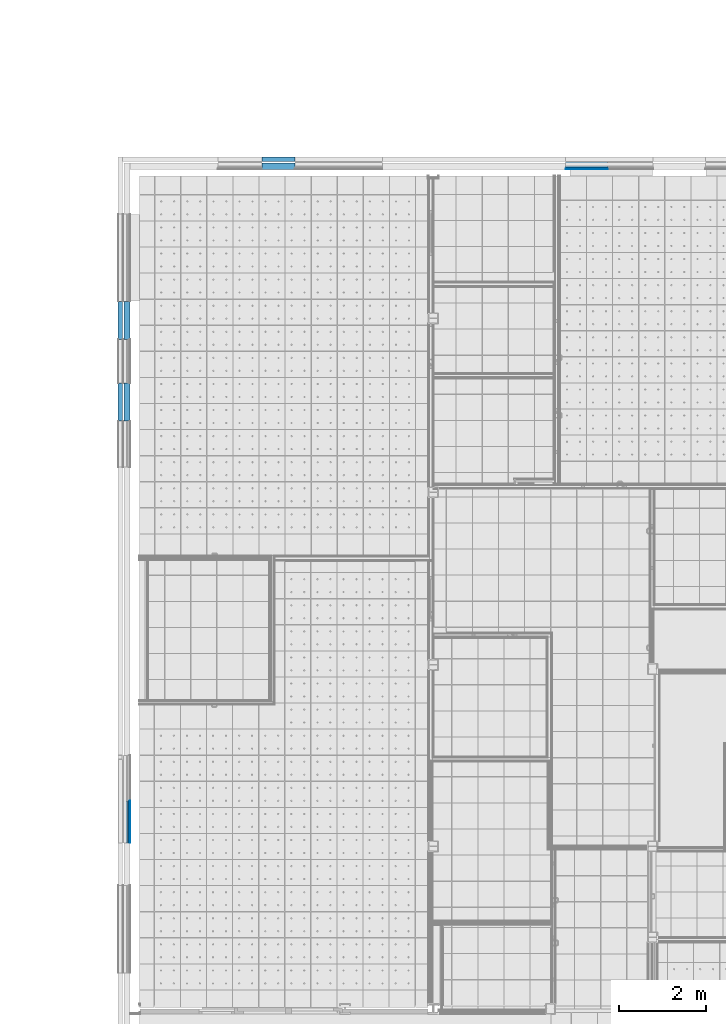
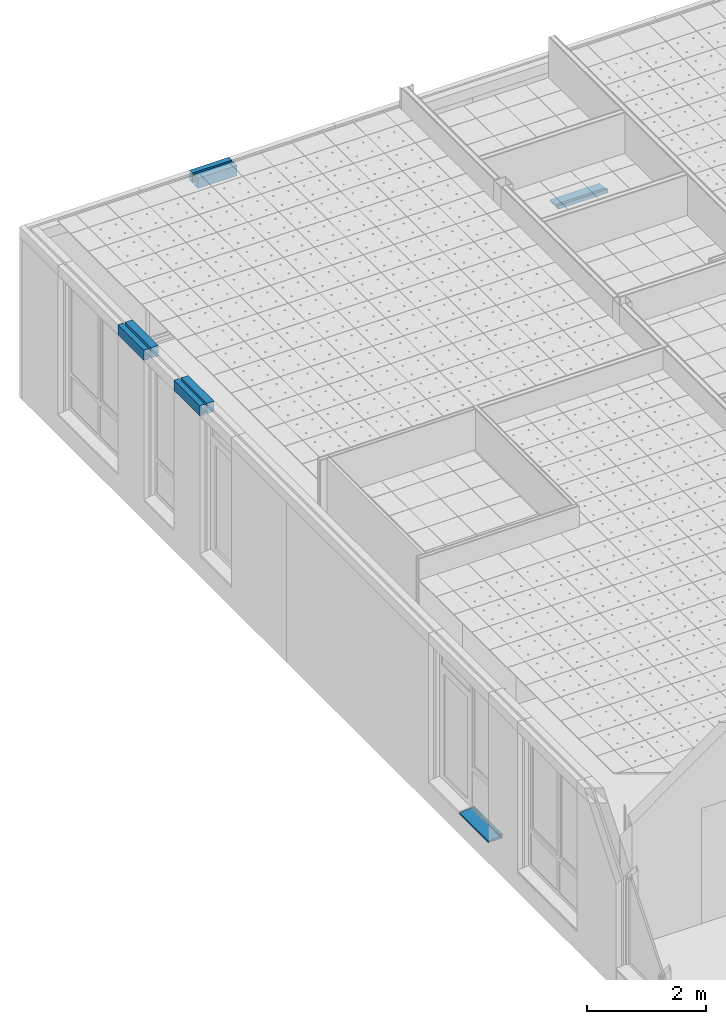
# One storey, part 115 of 338: 12 building element parts, 5 elements without a shape of their own.
"""IFC2X3 building model written with IfcOpenShell, lengths in millimetres."""

from ifc_helpers import new_model, entity, si_unit, converted_unit, derived_unit, money_unit, direction, frame, origin_with_axes, place, context, subcontext, project, spatial, faceted_brep, material, type_object, element, aggregate, save


model = new_model("IFC2X3")

# Units and contexts
model_context = context("Model", 3, precision=0.01, world=origin_with_axes(), true_north=direction((0.0, 1.0)))
plan_context = context("Plan", 3, precision=0.01, world=origin_with_axes(), true_north=direction((0.0, 1.0)))
body_context = subcontext(model_context, "Body", "Model", "MODEL_VIEW")
ifc_project = project(units=[si_unit("LENGTHUNIT", "METRE", prefix="MILLI"), si_unit("AREAUNIT", "SQUARE_METRE"), si_unit("VOLUMEUNIT", "CUBIC_METRE"), converted_unit("PLANEANGLEUNIT", "DEGREE", entity("IfcPlaneAngleMeasure", 0.0174532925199), si_unit("PLANEANGLEUNIT", "RADIAN"), dimensions=[0, 0, 0, 0, 0, 0, 0]), money_unit("EUR"), converted_unit("TIMEUNIT", "Year", entity("IfcTimeMeasure", 31556926.0), si_unit("TIMEUNIT", "SECOND"), dimensions=[0, 0, 1, 0, 0, 0, 0]), si_unit("MASSUNIT", "GRAM", prefix="KILO"), si_unit("THERMODYNAMICTEMPERATUREUNIT", "DEGREE_CELSIUS"), si_unit("LUMINOUSINTENSITYUNIT", "LUMEN"), si_unit("ENERGYUNIT", "JOULE", prefix="MEGA"), derived_unit("THERMALCONDUCTANCEUNIT", [(si_unit("POWERUNIT", "WATT"), 1), (si_unit("LENGTHUNIT", "METRE"), -1), (si_unit("THERMODYNAMICTEMPERATUREUNIT", "KELVIN"), -1)]), derived_unit("SPECIFICHEATCAPACITYUNIT", [(si_unit("ENERGYUNIT", "JOULE"), 1), (si_unit("MASSUNIT", "GRAM", prefix="KILO"), -1), (si_unit("THERMODYNAMICTEMPERATUREUNIT", "KELVIN"), -1)]), derived_unit("MASSDENSITYUNIT", [(si_unit("MASSUNIT", "GRAM", prefix="KILO"), 1), (si_unit("VOLUMEUNIT", "CUBIC_METRE"), -1)])], contexts=[model_context, plan_context])

# Site, building, storey
site_placement = place(None, origin_with_axes())
site = spatial("IfcSite", under=ifc_project, at=site_placement, Name="Fortuinstraat Woensdrecht", CompositionType="ELEMENT")
building_placement = place(site_placement, origin_with_axes())
building = spatial("IfcBuilding", under=site, at=building_placement, Name="IKC Fortuna", CompositionType="ELEMENT")
storey_placement = place(building_placement, origin_with_axes())
storey = spatial("IfcBuildingStorey", under=building, at=storey_placement, Name="00 begane grond", CompositionType="ELEMENT", Elevation=0.0)

# Covering, building element parts
covering_type_1 = type_object("IfcCoveringType", Name="41 Rollaag 280 x 210", PredefinedType="NOTDEFINED")
covering_1_placement = place(storey_placement, frame((13455.4349765, 29706.2965884, 2800.0), z_axis=(0.0, 0.0, 1.0), x_axis=(0.0, 1.0, 0.0)))
covering_1 = element("IfcCovering", 1, at=covering_1_placement, inside=storey, type_object=covering_type_1, Name="41_Afwerking_Rollaag", PredefinedType="NOTDEFINED")
ifc_material_1 = material(Name="Steen - Baksteen Accent Rollaag")
building_element_part_1_placement = place(covering_1_placement, origin_with_axes())
building_element_part_1 = element("IfcBuildingElementPart", 2, at=building_element_part_1_placement, material=ifc_material_1, Name="Steen - Baksteen Accent Rollaag", context=body_context, shape_type="Brep", body=[
    faceted_brep([(732.177778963, 40.0, 0.0), (732.177778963, 40.0000000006, 12.0), (870.0, 40.0000000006, 12.0), (870.0, 40.0, 210.0), (0.0, 40.0, 210.0), (0.0, 40.0000000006, 12.0), (138.177778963, 40.0000000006, 12.0), (138.177778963, 40.0, 0.0), (732.177778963, 52.0000000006, 0.0), (732.177778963, 43.5147186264, 3.51471862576), (870.0, 43.5147186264, 3.51471862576), (870.0, 52.0000000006, 0.0), (870.0, 140.0, 0.0), (870.0, 140.0, 210.0), (0.0, 140.0, 210.0), (0.0, 43.5147186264, 3.51471862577), (0.0, 140.0, 0.0), (0.0, 52.0000000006, 0.0), (138.177778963, 43.5147186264, 3.51471862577), (138.177778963, 52.0000000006, 0.0)], [[[0, 1, 2, 3, 4, 5, 6, 7]], [[1, 0, 8, 9]], [[10, 2, 1, 9]], [[10, 11, 12, 13, 3, 2]], [[4, 3, 13, 14]], [[15, 5, 4, 14, 16, 17]], [[6, 5, 15, 18]], [[7, 6, 18, 19]], [[8, 0, 7, 19, 17, 16, 12, 11]], [[11, 10, 9, 8]], [[14, 13, 12, 16]], [[15, 17, 19, 18]]]),
])
ifc_material_2 = material(Name="ALG - ISOLATIE")
building_element_part_2_placement = place(covering_1_placement, origin_with_axes())
building_element_part_2 = element("IfcBuildingElementPart", 3, at=building_element_part_2_placement, material=ifc_material_2, Name="ALG - ISOLATIE", context=body_context, shape_type="Brep", body=[
    faceted_brep([(870.0, 0.0, 0.0), (870.0, -140.0, 0.0), (0.0, -140.0, 0.0), (0.0, 0.0, 0.0), (870.0, 0.0, 210.0), (870.0, -140.0, 210.0), (0.0, -140.0, 210.0), (0.0, 0.0, 210.0)], [[[0, 1, 2, 3]], [[0, 4, 5, 1]], [[1, 5, 6, 2]], [[3, 2, 6, 7]], [[4, 0, 3, 7]], [[5, 4, 7, 6]]]),
])
aggregate(covering_1, [building_element_part_1, building_element_part_2])

covering_2_placement = place(storey_placement, frame((13455.4349765, 31586.2965884, 2800.0), z_axis=(0.0, 0.0, 1.0), x_axis=(0.0, 1.0, 0.0)))
covering_2 = element("IfcCovering", 4, at=covering_2_placement, inside=storey, type_object=covering_type_1, Name="41_Afwerking_Rollaag", PredefinedType="NOTDEFINED")
building_element_part_3_placement = place(covering_2_placement, origin_with_axes())
building_element_part_3 = element("IfcBuildingElementPart", 5, at=building_element_part_3_placement, material=ifc_material_1, Name="Steen - Baksteen Accent Rollaag", context=body_context, shape_type="Brep", body=[
    faceted_brep([(732.000039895, 40.0, 0.0), (732.000039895, 40.0000000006, 12.0), (870.000020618, 40.0000000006, 12.0), (870.000020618, 40.0, 210.0), (0.0, 40.0, 210.0), (0.0, 40.0000000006, 12.0), (150.246007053, 40.0000000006, 12.0), (150.246007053, 40.0, 0.0), (732.000039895, 52.0000000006, 0.0), (732.000039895, 43.5147186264, 3.51471862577), (870.000020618, 43.5147186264, 3.51471862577), (870.000020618, 52.0000000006, 0.0), (870.000020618, 140.0, 0.0), (870.000020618, 140.0, 210.0), (0.0, 140.0, 210.0), (0.0, 43.5147186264, 3.51471862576), (0.0, 140.0, 0.0), (0.0, 52.0000000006, 0.0), (150.246007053, 43.5147186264, 3.51471862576), (150.246007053, 52.0000000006, 0.0)], [[[0, 1, 2, 3, 4, 5, 6, 7]], [[1, 0, 8, 9]], [[10, 2, 1, 9]], [[10, 11, 12, 13, 3, 2]], [[4, 3, 13, 14]], [[15, 5, 4, 14, 16, 17]], [[6, 5, 15, 18]], [[7, 6, 18, 19]], [[8, 0, 7, 19, 17, 16, 12, 11]], [[11, 10, 9, 8]], [[14, 13, 12, 16]], [[15, 17, 19, 18]]]),
])
building_element_part_4_placement = place(covering_2_placement, origin_with_axes())
building_element_part_4 = element("IfcBuildingElementPart", 6, at=building_element_part_4_placement, material=ifc_material_2, Name="ALG - ISOLATIE", context=body_context, shape_type="Brep", body=[
    faceted_brep([(870.000020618, 0.0, 0.0), (870.000020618, -140.0, 0.0), (0.0, -140.0, 0.0), (0.0, 0.0, 0.0), (870.000020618, 0.0, 210.0), (870.000020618, -140.0, 210.0), (0.0, -140.0, 210.0), (0.0, 0.0, 210.0)], [[[0, 1, 2, 3]], [[0, 4, 5, 1]], [[1, 5, 6, 2]], [[3, 2, 6, 7]], [[4, 0, 3, 7]], [[5, 4, 7, 6]]]),
])
aggregate(covering_2, [building_element_part_3, building_element_part_4])

covering_3_placement = place(storey_placement, frame((17385.4349971, 35636.2966283, 2800.0), z_axis=(0.0, 0.0, 1.0), x_axis=(-1.0, 0.0, 0.0)))
covering_3 = element("IfcCovering", 7, at=covering_3_placement, inside=storey, type_object=covering_type_1, Name="41_Afwerking_Rollaag", PredefinedType="NOTDEFINED")
building_element_part_5_placement = place(covering_3_placement, origin_with_axes())
building_element_part_5 = element("IfcBuildingElementPart", 8, at=building_element_part_5_placement, material=ifc_material_2, Name="ALG - ISOLATIE", context=body_context, shape_type="Brep", body=[
    faceted_brep([(760.000020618, 0.0, 210.0), (760.000020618, 140.0, 210.0), (0.0, 140.0, 210.0), (0.0, 0.0, 210.0), (760.000020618, 0.0, 0.0), (760.000020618, 140.0, 0.0), (0.0, 140.0, 0.0), (0.0, 0.0, 0.0)], [[[0, 1, 2, 3]], [[0, 4, 5, 1]], [[1, 5, 6, 2]], [[3, 2, 6, 7]], [[4, 0, 3, 7]], [[5, 4, 7, 6]]]),
])
building_element_part_6_placement = place(covering_3_placement, origin_with_axes())
building_element_part_6 = element("IfcBuildingElementPart", 9, at=building_element_part_6_placement, material=ifc_material_1, Name="Steen - Baksteen Accent Rollaag", context=body_context, shape_type="Brep", body=[
    faceted_brep([(0.0, -140.0, 0.0), (760.000020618, -140.0, 0.0), (760.000020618, -140.0, 210.0), (0.0, -140.0, 210.0), (0.0, -40.0, 0.0), (760.000020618, -40.0, 0.0), (760.000020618, -40.0, 210.0), (0.0, -40.0, 210.0)], [[[0, 1, 2, 3]], [[4, 5, 1, 0]], [[2, 1, 5, 6]], [[3, 2, 6, 7]], [[4, 0, 3, 7]], [[7, 6, 5, 4]]]),
])
aggregate(covering_3, [building_element_part_5, building_element_part_6])

covering_type_2 = type_object("IfcCoveringType", Name="41 dorpel aan peil 280 x 75", PredefinedType="NOTDEFINED")
covering_4_placement = place(storey_placement, frame((13455.435258, 20002.2767012, -2.5), z_axis=(0.0, 0.0, 1.0), x_axis=(0.0, 1.0, 0.0)))
covering_4 = element("IfcCovering", 10, at=covering_4_placement, inside=storey, type_object=covering_type_2, Name="41_Afwerking_Waterslag", PredefinedType="NOTDEFINED")
ifc_material_3 = material(Name="Steen - Kunststeen")
building_element_part_7_placement = place(covering_4_placement, origin_with_axes())
building_element_part_7 = element("IfcBuildingElementPart", 11, at=building_element_part_7_placement, material=ifc_material_3, Name="Steen - Kunststeen", context=body_context, shape_type="Brep", body=[
    faceted_brep([(967.0, 140.0, -39.7722078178), (967.0, 140.0, -72.5), (0.0, 140.0, -72.5), (0.0, 140.0, -39.7722078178), (967.0, -82.0, -19.5865456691), (967.0, -82.0, 2.5), (967.0, -92.0, 2.5), (967.0, -92.0, -72.5), (0.0, -92.0, -72.5), (0.0, -92.0, 2.5), (0.0, -82.0, 2.5), (0.0, -82.0, -19.5865456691)], [[[0, 1, 2, 3]], [[0, 4, 5, 6, 7, 1]], [[1, 7, 8, 2]], [[3, 2, 8, 9, 10, 11]], [[4, 0, 3, 11]], [[5, 4, 11, 10]], [[6, 5, 10, 9]], [[7, 6, 9, 8]]]),
])
ifc_material_4 = material(Name="Hout AFW")
building_element_part_8_placement = place(covering_4_placement, origin_with_axes())
building_element_part_8 = element("IfcBuildingElementPart", 12, at=building_element_part_8_placement, material=ifc_material_4, Name="Hout AFW", context=body_context, shape_type="Brep", body=[
    faceted_brep([(967.0, -92.0000008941, 2.49999865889), (967.0, -92.0000008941, -72.5), (0.0, -92.0000008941, -72.5), (0.0, -92.0000008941, 2.49999865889), (967.0, -130.0, 2.49999865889), (967.0, -130.0, -72.5), (0.0, -130.0, -72.5), (0.0, -130.0, 2.49999865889)], [[[0, 1, 2, 3]], [[0, 4, 5, 1]], [[1, 5, 6, 2]], [[3, 2, 6, 7]], [[4, 0, 3, 7]], [[5, 4, 7, 6]]]),
])
ifc_material_5 = material(Name="Isolatie - PUR gespoten")
building_element_part_9_placement = place(covering_4_placement, origin_with_axes())
building_element_part_9 = element("IfcBuildingElementPart", 13, at=building_element_part_9_placement, material=ifc_material_5, Name="Isolatie - PUR gespoten", context=body_context, shape_type="Brep", body=[
    faceted_brep([(967.0, -129.999999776, -72.5), (967.0, -139.999999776, -72.5), (0.0, -139.999999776, -72.5), (0.0, -129.999999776, -72.5), (967.0, -129.999999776, 2.49999888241), (967.0, -139.999999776, 2.5), (0.0, -139.999999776, 2.5), (0.0, -129.999999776, 2.49999888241)], [[[0, 1, 2, 3]], [[0, 4, 5, 1]], [[1, 5, 6, 2]], [[3, 2, 6, 7]], [[4, 0, 3, 7]], [[5, 4, 7, 6]]]),
])
aggregate(covering_4, [building_element_part_7, building_element_part_8, building_element_part_9])

covering_5_placement = place(storey_placement, frame((23615.4349147, 35636.2963468, -2.5), z_axis=(0.0, 0.0, 1.0), x_axis=(1.0, 0.0, 0.0)))
covering_5 = element("IfcCovering", 14, at=covering_5_placement, inside=storey, type_object=covering_type_2, Name="41_Afwerking_Waterslag", PredefinedType="NOTDEFINED")
building_element_part_10_placement = place(covering_5_placement, origin_with_axes())
building_element_part_10 = element("IfcBuildingElementPart", 15, at=building_element_part_10_placement, material=ifc_material_3, Name="Steen - Kunststeen", context=body_context, shape_type="Brep", body=[
    faceted_brep([(967.0, 140.0, -39.7722078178), (967.0, 140.0, -72.5), (0.0, 140.0, -72.5), (0.0, 140.0, -39.7722078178), (967.0, -82.0, -19.5865456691), (967.0, -82.0, 2.5), (967.0, -92.0, 2.5), (967.0, -92.0, -72.5), (0.0, -92.0, -72.5), (0.0, -92.0, 2.5), (0.0, -82.0, 2.5), (0.0, -82.0, -19.5865456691)], [[[0, 1, 2, 3]], [[0, 4, 5, 6, 7, 1]], [[1, 7, 8, 2]], [[3, 2, 8, 9, 10, 11]], [[4, 0, 3, 11]], [[5, 4, 11, 10]], [[6, 5, 10, 9]], [[7, 6, 9, 8]]]),
])
building_element_part_11_placement = place(covering_5_placement, origin_with_axes())
building_element_part_11 = element("IfcBuildingElementPart", 16, at=building_element_part_11_placement, material=ifc_material_4, Name="Hout AFW", context=body_context, shape_type="Brep", body=[
    faceted_brep([(967.0, -92.0000008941, 2.49999865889), (967.0, -92.0000008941, -72.5), (0.0, -92.0000008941, -72.5), (0.0, -92.0000008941, 2.49999865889), (967.0, -130.0, 2.49999865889), (967.0, -130.0, -72.5), (0.0, -130.0, -72.5), (0.0, -130.0, 2.49999865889)], [[[0, 1, 2, 3]], [[0, 4, 5, 1]], [[1, 5, 6, 2]], [[3, 2, 6, 7]], [[4, 0, 3, 7]], [[5, 4, 7, 6]]]),
])
building_element_part_12_placement = place(covering_5_placement, origin_with_axes())
building_element_part_12 = element("IfcBuildingElementPart", 17, at=building_element_part_12_placement, material=ifc_material_5, Name="Isolatie - PUR gespoten", context=body_context, shape_type="Brep", body=[
    faceted_brep([(967.0, -129.999999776, -72.5), (967.0, -139.999999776, -72.5), (0.0, -139.999999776, -72.5), (0.0, -129.999999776, -72.5), (967.0, -129.999999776, 2.49999888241), (967.0, -139.999999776, 2.5), (0.0, -139.999999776, 2.5), (0.0, -129.999999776, 2.49999888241)], [[[0, 1, 2, 3]], [[0, 4, 5, 1]], [[1, 5, 6, 2]], [[3, 2, 6, 7]], [[4, 0, 3, 7]], [[5, 4, 7, 6]]]),
])
aggregate(covering_5, [building_element_part_10, building_element_part_11, building_element_part_12])

save(model, "model.ifc")
